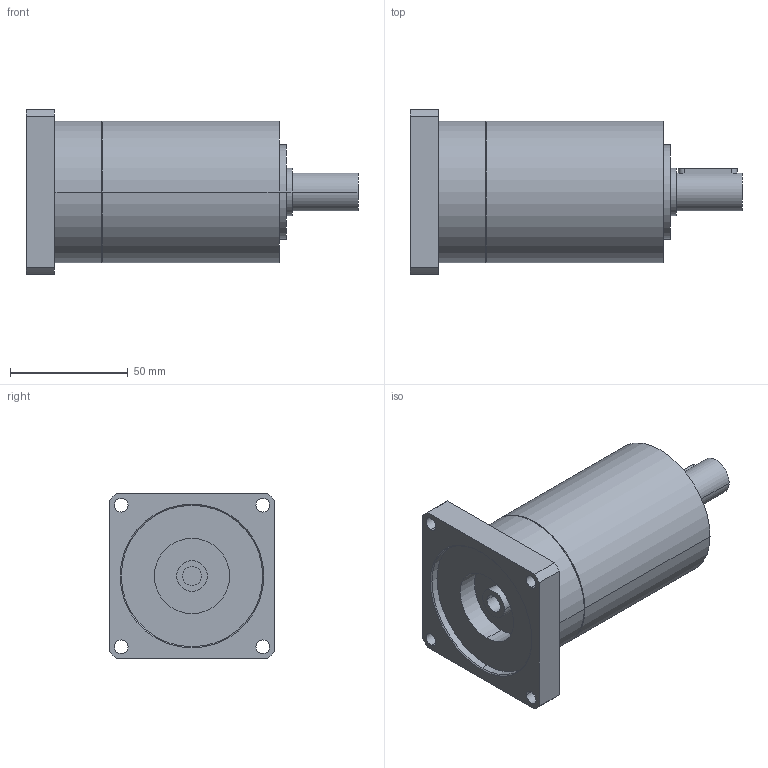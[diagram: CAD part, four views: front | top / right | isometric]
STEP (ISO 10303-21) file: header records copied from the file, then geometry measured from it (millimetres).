
FILE_DESCRIPTION(('CoCreate Modeling STEP Export'),'2;1');
FILE_NAME('GPR75_ig-9-12-16-20-24-30-36_16_B14_8_P30.stp','2014-08-25T16:06:19',(''),(''),'CoCreate Modeling STEP processor for AP214 (Solid Model)','CoCreate Modeling 16.00C 25-Feb-2009 (C) Parametric Technology GmbH','');
FILE_SCHEMA(('AUTOMOTIVE_DESIGN { 1 0 10303 214 1 1 1 1 }'));
Length unit declared in the file: millimetre
Products named in the file (2): GPR75_ig-9-12-16-20-24-30-36_16_B14_8_P30
Assembly tree (1 placements, depth 2):
  GPR75_ig-9-12-16-20-24-30-36_16_B14_8_P30
    GPR75_ig-9-12-16-20-24-30-36_16_B14_8_P30
Bounding box: 140.9 x 70 x 70 mm (x, y, z)
Volume: 319387.3 mm3; surface area: 36856 mm2
Topology: 1 solids, 1 shells, 72 faces, 188 edges, 130 vertices
Faces by surface type: cylinder 42, plane 22, cone 8
Entity records: 1959 total; most frequent: ORIENTED_EDGE 372, CARTESIAN_POINT 362, DIRECTION 268, EDGE_CURVE 186, VERTEX_POINT 130, AXIS2_PLACEMENT_3D 100, EDGE_LOOP 94, FACE_OUTER_BOUND 72
